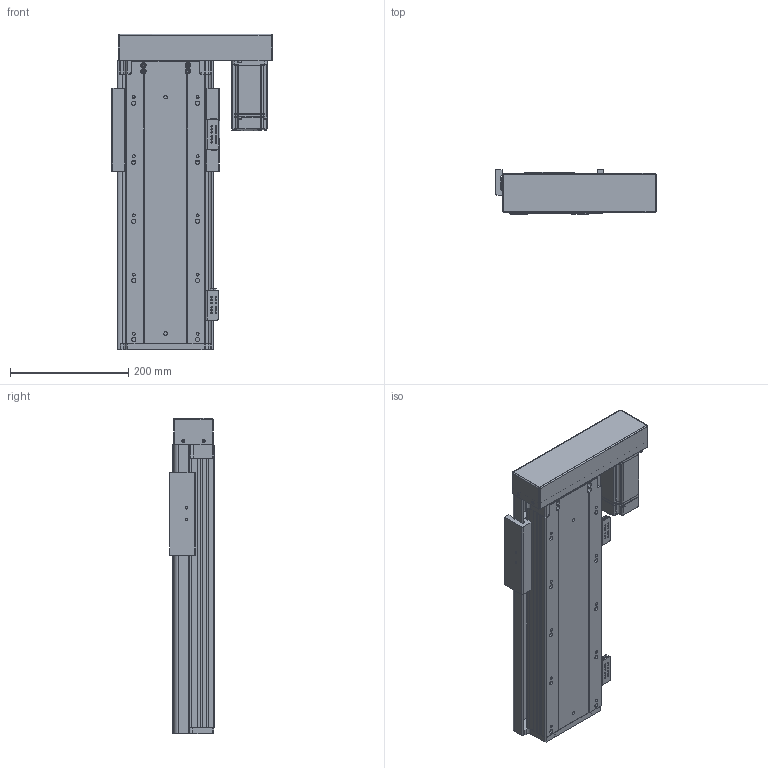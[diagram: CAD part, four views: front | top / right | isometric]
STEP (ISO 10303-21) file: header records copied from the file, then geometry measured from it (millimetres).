
FILE_DESCRIPTION (( 'STEP AP203' ), '1' );
FILE_NAME ('RY140FB-L2010-300-RK.SLDASM_250.step', '2021-02-23T02:40:47', ( '盈信电脑' ), ( '东莞市道滘镇水果街19号' ), 'SwSTEP 2.0', 'SolidWorks 2012', '' );
FILE_SCHEMA (( 'CONFIG_CONTROL_DESIGN' ));
Length unit declared in the file: millimetre
Products named in the file (17): RY140FB-L2010-300-RK.SLDASM_250; RY140FB-酘衵殏萇儂欶; RY140-674嫖萇耀輸; RY140FB-覜茼え; RY140FB-左右折电机安装板; 覜茼ん674; RY140FB-300蛌殏奻裔啣-RK_250; RY140直线电机感应器674光电安装座; RY140FB-20佪裝臏賑輸; 侂狟400W侜督萇儂; 15; RY140FB-转折电机端支撑座(7002); 滅袉蝶18-24; RY140FB-綴裔啣; 滅袉蝶18-10; RY140FB-300蛌殏倰第菁釱-RK_250
Assembly tree (20 placements, depth 3):
  RY140FB-L2010-300-RK.SLDASM_250
    RY140FB-300蛌殏倰第菁釱-RK_250
    RY140FB-綴裔啣
    滅袉蝶18-24  x2
    滅袉蝶18-10
    RY140FB-转折电机端支撑座(7002)
    侂狟400W侜督萇儂
      15
    RY140FB-20佪裝臏賑輸
    RY140FB-300蛌殏奻裔啣-RK_250
    RY140-674嫖萇耀輸
      覜茼ん674
      RY140直线电机感应器674光电安装座
    RY140-674嫖萇耀輸
      覜茼ん674  x2
      RY140直线电机感应器674光电安装座
    RY140FB-覜茼え
    RY140FB-左右折电机安装板
    RY140FB-酘衵殏萇儂欶
Bounding box: 271.3 x 75 x 533.2 mm (x, y, z)
Volume: 2714119.5 mm3; surface area: 864352.8 mm2
Topology: 17 solids, 17 shells, 1678 faces, 4551 edges, 2905 vertices
Faces by surface type: cylinder 781, plane 727, cone 142, bspline 28
Entity records: 49985 total; most frequent: CARTESIAN_POINT 9853, DIRECTION 8156, ORIENTED_EDGE 7866, EDGE_CURVE 3933, AXIS2_PLACEMENT_3D 2928, VERTEX_POINT 2573, VECTOR 2300, LINE 2300
